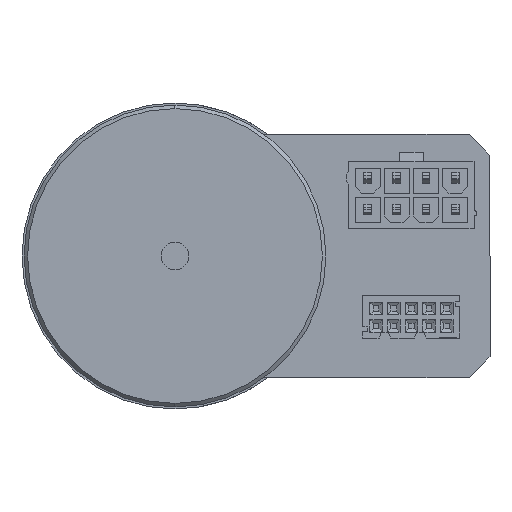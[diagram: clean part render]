
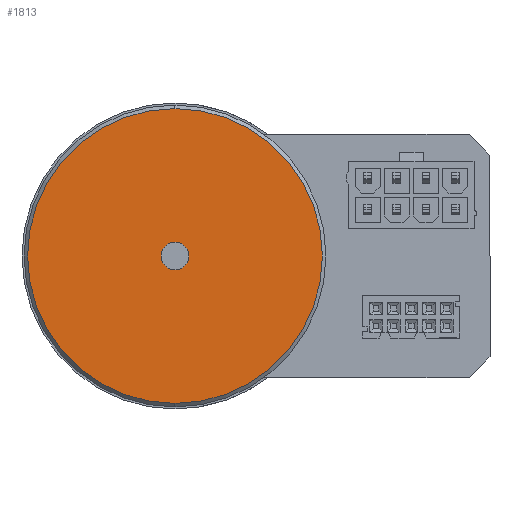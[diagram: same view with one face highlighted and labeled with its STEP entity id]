
A CAD part, left-side view. The second image highlights one B-rep face of the part: STEP entity #1813.
In plain terms, the highlighted planar face has unit normal (-1, 0, 0) as drawn and (1, 0, 0) by its records, which use the part's own axes.
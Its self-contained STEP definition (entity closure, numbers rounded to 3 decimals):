
#10 = CIRCLE ( 'NONE', #24643, 2. ) ;
#1350 = CARTESIAN_POINT ( 'NONE',  ( 28.4, 21.7, 0. ) ) ;
#1813 = ADVANCED_FACE ( 'NONE', ( #12542, #3587 ), #10428, .F. ) ;
#3242 = DIRECTION ( 'NONE',  ( -1., 0., 0. ) ) ;
#3587 = FACE_BOUND ( 'NONE', #5828, .T. ) ;
#4939 = AXIS2_PLACEMENT_3D ( 'NONE', #27925, #9923, #30945 ) ;
#5766 = EDGE_CURVE ( 'NONE', #10035, #36453, #36984, .T. ) ;
#5815 = EDGE_CURVE ( 'NONE', #7737, #31028, #11079, .T. ) ;
#5828 = EDGE_LOOP ( 'NONE', ( #34713, #30186 ) ) ;
#6979 = CIRCLE ( 'NONE', #14409, 21.2 ) ;
#7737 = VERTEX_POINT ( 'NONE', #33986 ) ;
#8425 = CARTESIAN_POINT ( 'NONE',  ( 28.4, 0., 0. ) ) ;
#9923 = DIRECTION ( 'NONE',  ( 1., 0., 0. ) ) ;
#10035 = VERTEX_POINT ( 'NONE', #26178 ) ;
#10065 = EDGE_CURVE ( 'NONE', #36453, #10035, #6979, .T. ) ;
#10187 = CARTESIAN_POINT ( 'NONE',  ( 28.4, 0., 0. ) ) ;
#10428 = PLANE ( 'NONE',  #15675 ) ;
#11079 = CIRCLE ( 'NONE', #15062, 2. ) ;
#11443 = DIRECTION ( 'NONE',  ( 0., 0., 1. ) ) ;
#11783 = ORIENTED_EDGE ( 'NONE', *, *, #10065, .T. ) ;
#12542 = FACE_OUTER_BOUND ( 'NONE', #38229, .T. ) ;
#13213 = DIRECTION ( 'NONE',  ( 0., 0., 1. ) ) ;
#13473 = DIRECTION ( 'NONE',  ( 0., 0., 1. ) ) ;
#14409 = AXIS2_PLACEMENT_3D ( 'NONE', #8425, #29432, #11443 ) ;
#15062 = AXIS2_PLACEMENT_3D ( 'NONE', #10187, #31207, #13213 ) ;
#15675 = AXIS2_PLACEMENT_3D ( 'NONE', #1350, #31456, #13473 ) ;
#19722 = CARTESIAN_POINT ( 'NONE',  ( 28.4, 0., -2. ) ) ;
#21287 = CARTESIAN_POINT ( 'NONE',  ( 28.4, 0., 0. ) ) ;
#24299 = DIRECTION ( 'NONE',  ( 0., 0., 1. ) ) ;
#24643 = AXIS2_PLACEMENT_3D ( 'NONE', #21287, #3242, #24299 ) ;
#26178 = CARTESIAN_POINT ( 'NONE',  ( 28.4, 0., -21.2 ) ) ;
#27925 = CARTESIAN_POINT ( 'NONE',  ( 28.4, 0., 0. ) ) ;
#29432 = DIRECTION ( 'NONE',  ( 1., 0., 0. ) ) ;
#29640 = EDGE_CURVE ( 'NONE', #31028, #7737, #10, .T. ) ;
#30186 = ORIENTED_EDGE ( 'NONE', *, *, #29640, .T. ) ;
#30945 = DIRECTION ( 'NONE',  ( 0., 0., 1. ) ) ;
#31028 = VERTEX_POINT ( 'NONE', #19722 ) ;
#31207 = DIRECTION ( 'NONE',  ( -1., 0., 0. ) ) ;
#31456 = DIRECTION ( 'NONE',  ( -1., 0., 0. ) ) ;
#33986 = CARTESIAN_POINT ( 'NONE',  ( 28.4, 0., 2. ) ) ;
#34713 = ORIENTED_EDGE ( 'NONE', *, *, #5815, .T. ) ;
#36453 = VERTEX_POINT ( 'NONE', #37053 ) ;
#36984 = CIRCLE ( 'NONE', #4939, 21.2 ) ;
#37053 = CARTESIAN_POINT ( 'NONE',  ( 28.4, 0., 21.2 ) ) ;
#37648 = ORIENTED_EDGE ( 'NONE', *, *, #5766, .T. ) ;
#38229 = EDGE_LOOP ( 'NONE', ( #11783, #37648 ) ) ;
